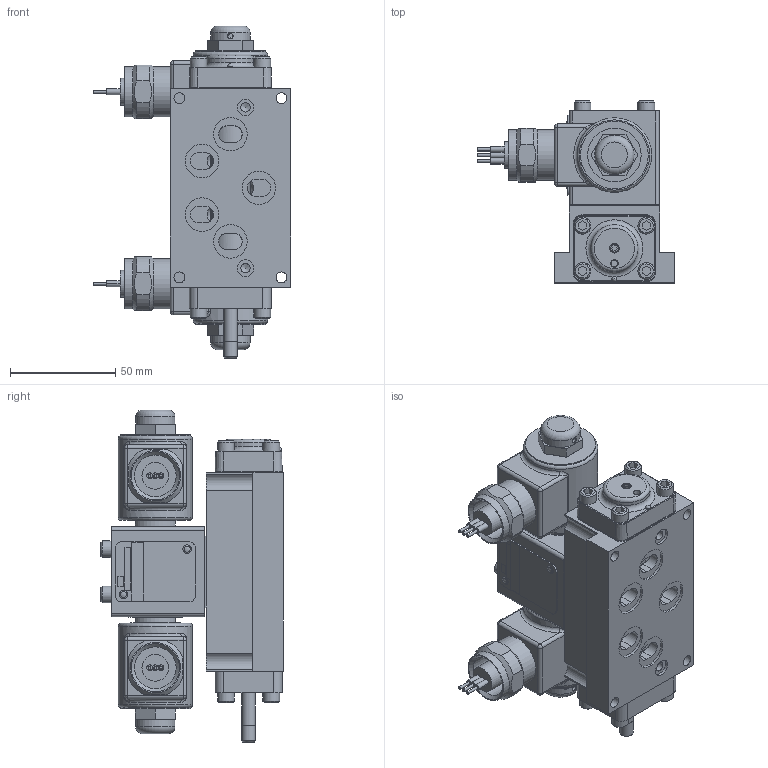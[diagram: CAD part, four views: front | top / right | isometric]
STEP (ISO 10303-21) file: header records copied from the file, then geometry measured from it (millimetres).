
FILE_DESCRIPTION(/* description */ (''),/* implementation_level */ '2;1');
FILE_NAME(/* name */ 'SY3PMLK.stp',/* time_stamp */ '2025-02-19T21:59:30-05:00',/* author */ ('rmckenna'),/* organization */ (''),/* preprocessor_version */ 'ST-DEVELOPER v20',/* originating_system */ 'Autodesk Inventor 2024',/* authorisation */ '');
FILE_SCHEMA (('AUTOMOTIVE_DESIGN { 1 0 10303 214 3 1 1 }'));
Products named in the file (1): Part57
Bounding box: 93.59 x 86.4 x 157.38 mm (x, y, z)
Volume: 355439.9 mm3; surface area: 110239.2 mm2
Topology: 2 solids, 35 shells, 1469 faces, 3373 edges, 2124 vertices
Faces by surface type: plane 645, cylinder 355, cone 279, torus 107, bspline 72, sphere 11
Full cylindrical faces by diameter (mm): 1.346 x6, 2.07 x2, 2.261 x2, 2.381 x2, 2.718 x2, 2.778 x2, 3.048 x4, 3.175 x2, 3.683 x14, 3.912 x1, 3.962 x2, 3.969 x1, 4.366 x9, 4.369 x3, 4.826 x16, 5.105 x4, 5.156 x8, 5.159 x9, 5.537 x7, 6.35 x3, 7.671 x1, 7.925 x2, 7.938 x12, 7.95 x1, 9.474 x2, 9.525 x3, 9.728 x1, 11.113 x1, 11.303 x3, 11.328 x2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
Entity records: 48842 total; most frequent: CARTESIAN_POINT 14097, DIRECTION 6898, ORIENTED_EDGE 6692, EDGE_CURVE 3346, AXIS2_PLACEMENT_3D 2644, VERTEX_POINT 2124, EDGE_LOOP 1732, LINE 1610
